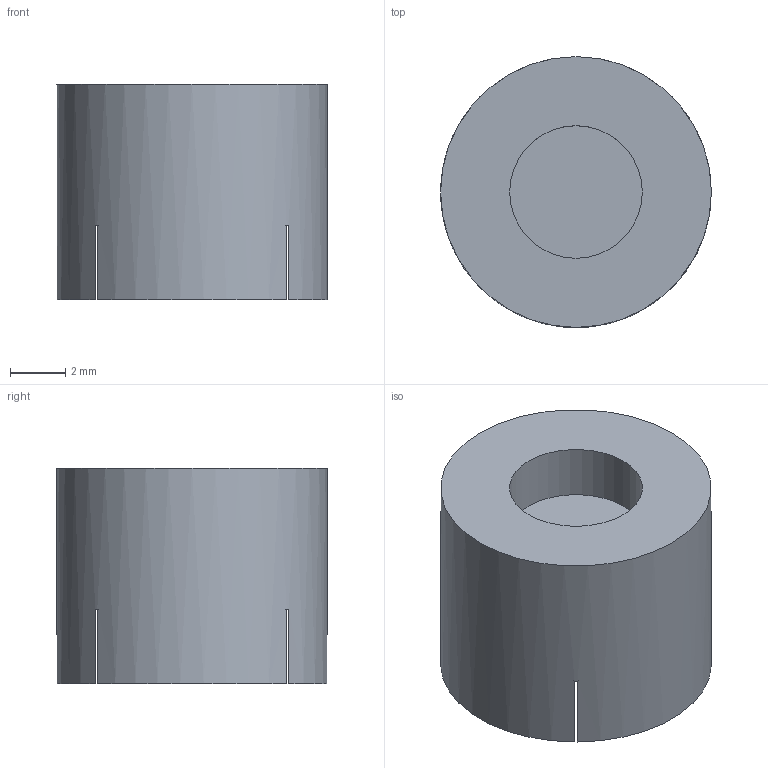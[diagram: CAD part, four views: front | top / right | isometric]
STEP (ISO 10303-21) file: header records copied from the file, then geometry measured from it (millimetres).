
FILE_DESCRIPTION(('Open CASCADE Model'),'2;1');
FILE_NAME('Open CASCADE Shape Model','2026-10-18T19:44:56',('Author'),( 'Open CASCADE'),'Open CASCADE STEP processor 7.9','Open CASCADE 7.9' ,'Unknown');
FILE_SCHEMA(('AUTOMOTIVE_DESIGN { 1 0 10303 214 1 1 1 1 }'));
Length unit declared in the file: millimetre
Products named in the file (1): Open CASCADE STEP translator 7.9 11
Bounding box: 9.8 x 9.8 x 7.8 mm (x, y, z)
Volume: 419.9 mm3; surface area: 494.2 mm2
Topology: 1 solids, 1 shells, 13 faces, 30 edges, 20 vertices
Faces by surface type: plane 11, cylinder 2
Full cylindrical faces by diameter (mm): 4.8 x1, 9.8 x1
Entity records: 767 total; most frequent: CARTESIAN_POINT 178, DIRECTION 101, ORIENTED_EDGE 60, PCURVE 60, DEFINITIONAL_REPRESENTATION 60, LINE 42, VECTOR 42, EDGE_CURVE 30
